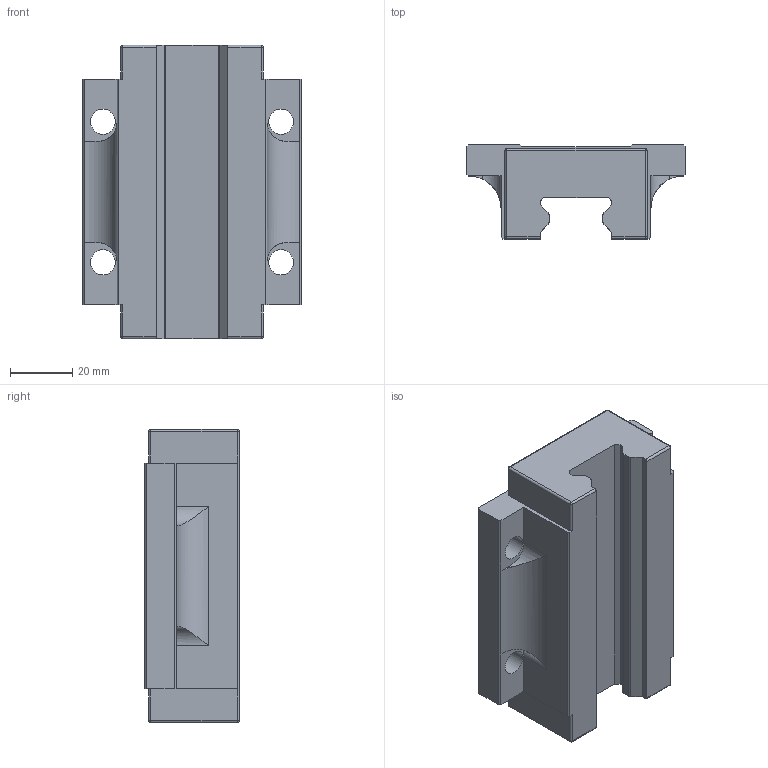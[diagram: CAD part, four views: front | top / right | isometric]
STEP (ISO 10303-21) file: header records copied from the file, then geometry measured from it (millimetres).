
FILE_DESCRIPTION (( 'STEP AP203' ), '1' );
FILE_NAME ('L1016.F25-L-BC.step', '2019-06-13T14:22:04', ( '' ), ( '' ), 'SwSTEP 2.0', 'SolidWorks 2017', '' );
FILE_SCHEMA (( 'CONFIG_CONTROL_DESIGN' ));
Length unit declared in the file: millimetre
Products named in the file (1): L1016.F25-L-BC
Bounding box: 70 x 30.2 x 93.9 mm (x, y, z)
Volume: 121480.5 mm3; surface area: 23380.6 mm2
Topology: 1 solids, 1 shells, 92 faces, 250 edges, 152 vertices
Faces by surface type: plane 48, cylinder 36, sphere 8
Entity records: 2987 total; most frequent: CARTESIAN_POINT 579, DIRECTION 492, ORIENTED_EDGE 484, EDGE_CURVE 242, VECTOR 170, LINE 170, AXIS2_PLACEMENT_3D 161, VERTEX_POINT 152
